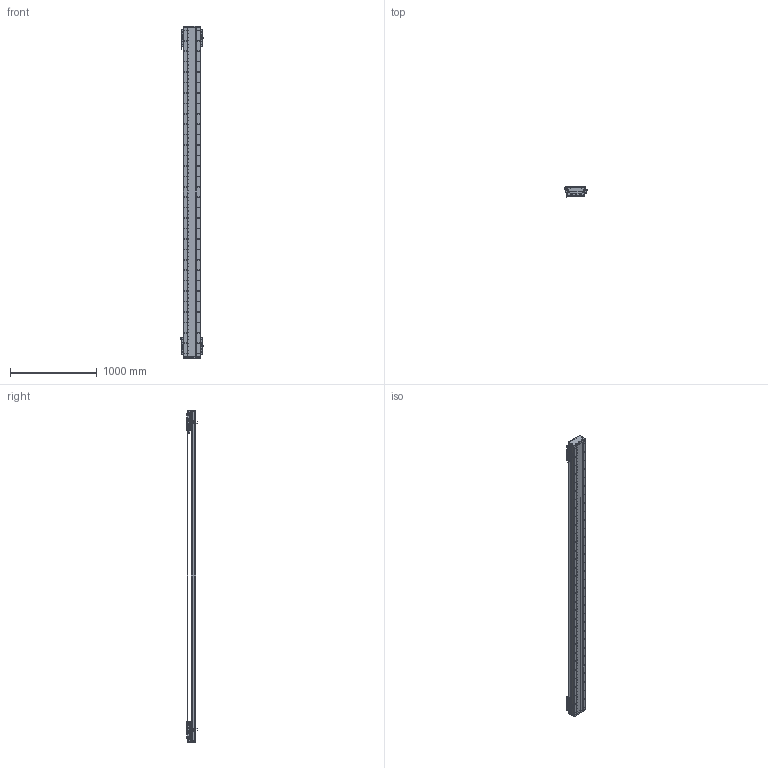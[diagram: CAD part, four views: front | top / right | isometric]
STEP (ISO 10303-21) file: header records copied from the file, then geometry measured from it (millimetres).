
FILE_DESCRIPTION (( 'STEP AP203' ), '1' );
FILE_NAME ('DA-C195-2-C2-T3320-C010-0.2 眻盄萇儂.STEP', '2025-08-14T02:17:39', ( '' ), ( '' ), 'SwSTEP 2.0', 'SolidWorks 2019', '' );
FILE_SCHEMA (( 'CONFIG_CONTROL_DESIGN' ));
Length unit declared in the file: millimetre
Products named in the file (19): IU-CU195-L-00 菁釱(L3780); DA95-HXJ-00 遣喳砎蝶-1; DA165-GYP-00 光电感应片(默认)-1; DA195詩湍嶺輸-1; PM-T45ㄗ侂狟ㄘ-1; DKW-KGZ-ZJ-00 中间光电开关支架-1; DKW168-HXJ-ZJ-00 笢潔滅袉砎蝶-1; LMT黍杅芛-1; MS200 棠掑喜S315-T1740-1; IU-CU195-L 菁釱絳寢-1; DA-C195-2-C2-T3320-C010-0.2 眻盄萇儂; DA195詩湍郪璃-1; CU195-C2賑輸-俋楷-1; DA195詩湍菜輸-1; 葩璃 DA95-GT-T-00-1; DA-C195-GD-DB-H-00 傷啣-1; PM-Y65嫖萇羲壽郪璃-1; DA195詩湍裔啣-1; DKW-GYP-ZJ-00 笢潔嫖萇覜茼え-1
Assembly tree (37 placements, depth 3):
  DA-C195-2-C2-T3320-C010-0.2 眻盄萇儂
    DA195詩湍郪璃-1
      DA195詩湍菜輸-1  x2
      DA195詩湍裔啣-1
      DA195詩湍嶺輸-1  x2
      DA95-HXJ-00 遣喳砎蝶-1  x8
      DA-C195-GD-DB-H-00 傷啣-1  x2
    IU-CU195-L 菁釱絳寢-1
      IU-CU195-L-00 菁釱(L3780)
      葩璃 DA95-GT-T-00-1  x4
    LMT黍杅芛-1  x2
    MS200 棠掑喜S315-T1740-1
    PM-T45ㄗ侂狟ㄘ-1  x4
    DA165-GYP-00 光电感应片(默认)-1  x2
    PM-Y65嫖萇羲壽郪璃-1
    DKW168-HXJ-ZJ-00 笢潔滅袉砎蝶-1
    DKW-GYP-ZJ-00 笢潔嫖萇覜茼え-1
    DKW-KGZ-ZJ-00 中间光电开关支架-1
    CU195-C2賑輸-俋楷-1  x2
Bounding box: 258.2 x 115.45 x 3820 mm (x, y, z)
Volume: 22297493.6 mm3; surface area: 6585118.4 mm2
Topology: 114 solids, 242 shells, 7517 faces, 20543 edges, 12865 vertices
Faces by surface type: cylinder 3788, plane 2645, cone 916, torus 88, sphere 72, bspline 8
Entity records: 177459 total; most frequent: CARTESIAN_POINT 50971, ORIENTED_EDGE 26918, DIRECTION 24914, EDGE_CURVE 13459, AXIS2_PLACEMENT_3D 9225, VERTEX_POINT 8752, VECTOR 6464, LINE 6464
